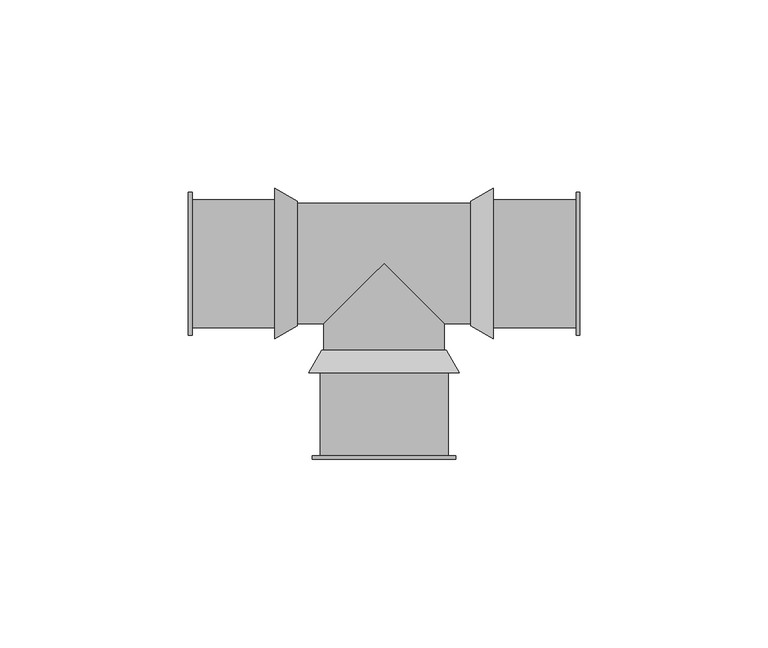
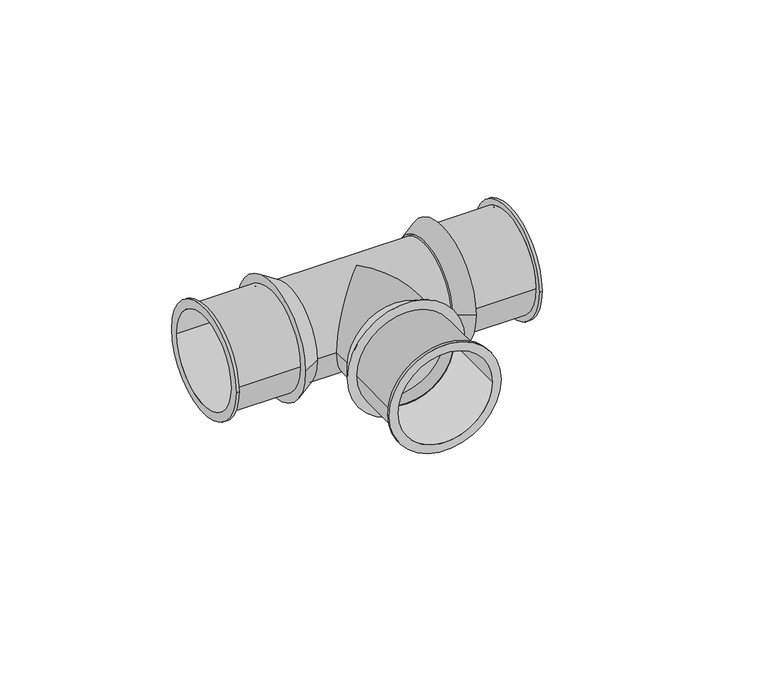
"""IFC4 building model written with IfcOpenShell, lengths in millimetres: pipe fitting geometry, SuperPipe_Tee_SPressPlus : SuperPipe_Tee_SPressPlus."""

from ifc_helpers import new_model, si_unit, point, frame, origin, origin_2d, place, context, project, spatial, polyline, circle_curve, ellipse_curve, trimmed, segment, composite_curve, outline, extrude, source, transform, mapped, element, save
from ifc_brep_helpers import plane_surface, cylinder_surface, revolved_surface, advanced_brep


def pipe_fitting_bb4a2914(model_context):
    return source(origin(), model_context, "Body", "SolidModel", [
        advanced_brep(
        [(-52.0, -19.0, 0.0), (-52.0, 19.0, 0.0), (-52.0, -16.0, 0.0), (-52.0, 16.0, 0.0), (-29.0, -17.0, 0.0), (-29.0, 17.0, 0.0), (-29.0, -16.0, 0.0), (-29.0, 16.0, 0.0), (-51.0, -16.0, 0.0), (-51.0, 16.0, 0.0), (-51.0, 17.0, 0.0), (-51.0, -17.0, 0.0), (-51.0, -19.0, 0.0), (-51.0, 19.0, 0.0)],
        [
            (0, 1, circle_curve(frame((-52.0, 0.0, 0.0), z_axis=(-1.0, 0.0, 0.0), x_axis=(0.0, 1.0, 0.0)), 19.0)),
            (1, 0, circle_curve(frame((-52.0, 0.0, 0.0), z_axis=(-1.0, 0.0, 0.0), x_axis=(0.0, 1.0, 0.0)), 19.0)),
            (2, 3, circle_curve(frame((-52.0, 0.0, 0.0), z_axis=(1.0, 0.0, 0.0), x_axis=(0.0, 1.0, 0.0)), 16.0)),
            (3, 2, circle_curve(frame((-52.0, 0.0, 0.0), z_axis=(1.0, 0.0, 0.0), x_axis=(0.0, 1.0, 0.0)), 16.0)),
            (4, 5, circle_curve(frame((-29.0, 0.0, 0.0), z_axis=(1.0, 0.0, 0.0), x_axis=(0.0, 1.0, 0.0)), 17.0)),
            (5, 4, circle_curve(frame((-29.0, 0.0, 0.0), z_axis=(1.0, 0.0, 0.0), x_axis=(0.0, 1.0, 0.0)), 17.0)),
            (6, 7, circle_curve(frame((-29.0, 0.0, 0.0), z_axis=(-1.0, 0.0, 0.0), x_axis=(0.0, 1.0, 0.0)), 16.0)),
            (7, 6, circle_curve(frame((-29.0, 0.0, 0.0), z_axis=(-1.0, 0.0, 0.0), x_axis=(0.0, 1.0, 0.0)), 16.0)),
            (2, 8),
            (8, 6),
            (7, 9),
            (9, 3),
            (5, 10),
            (10, 11, circle_curve(frame((-51.0, 0.0, 0.0), z_axis=(1.0, 0.0, 0.0), x_axis=(0.0, 1.0, 0.0)), 17.0)),
            (11, 4),
            (11, 10, circle_curve(frame((-51.0, 0.0, 0.0), z_axis=(1.0, 0.0, 0.0), x_axis=(0.0, 1.0, 0.0)), 17.0)),
            (12, 13, circle_curve(frame((-51.0, 0.0, 0.0), z_axis=(1.0, 0.0, 0.0), x_axis=(0.0, 1.0, 0.0)), 19.0)),
            (13, 12, circle_curve(frame((-51.0, 0.0, 0.0), z_axis=(1.0, 0.0, 0.0), x_axis=(0.0, 1.0, 0.0)), 19.0)),
            (0, 12),
            (13, 1),
        ],
        [
            plane_surface(frame((-52.0, 0.0, 0.0), z_axis=(-1.0, 0.0, 0.0), x_axis=(0.0, 0.0, 1.0))),
            plane_surface(frame((-29.0, 0.0, 0.0), z_axis=(1.0, 0.0, 0.0), x_axis=(0.0, 0.0, 1.0))),
            revolved_surface(polyline([(-29.0, 16.0, 0.0), (-52.0, 16.0, 0.0)]), (-52.0, 0.0, 0.0), (1.0, 0.0, 0.0)),
            cylinder_surface(frame((-52.0, 0.0, 0.0), z_axis=(-1.0, 0.0, 0.0), x_axis=(0.0, 1.0, 0.0)), 17.0),
            plane_surface(frame((-51.0, 0.0, 0.0), z_axis=(1.0, 0.0, 0.0), x_axis=(0.0, 0.0, 1.0))),
            cylinder_surface(frame((-52.0, 0.0, 0.0), z_axis=(-1.0, 0.0, 0.0), x_axis=(0.0, 1.0, 0.0)), 19.0),
        ],
        [
            (0, [[1, 2], [3, 4]]),
            (1, [[5, 6], [7, 8]]),
            (2, [[-3, 9, 10, -8, 11, 12]]),
            (2, [[-4, -12, -11, -7, -10, -9]]),
            (3, [[-6, 13, 14, 15]]),
            (3, [[-5, -15, 16, -13]]),
            (4, [[17, 18], [-14, -16]]),
            (5, [[-1, 19, -18, 20]]),
            (5, [[-2, -20, -17, -19]]),
        ],
    ),
        advanced_brep(
        [(29.0, -17.0, 0.0), (29.0, 17.0, 0.0), (29.0, -16.0, 0.0), (29.0, 16.0, 0.0), (52.0, -19.0, 0.0), (52.0, 19.0, 0.0), (52.0, -16.0, 0.0), (52.0, 16.0, 0.0), (51.0, -17.0, 0.0), (51.0, 17.0, 0.0), (51.0, -16.0, 0.0), (51.0, 16.0, 0.0), (51.0, -19.0, 0.0), (51.0, 19.0, 0.0)],
        [
            (0, 1, circle_curve(frame((29.0, 0.0, 0.0), z_axis=(-1.0, 0.0, 0.0), x_axis=(0.0, 1.0, 0.0)), 17.0)),
            (1, 0, circle_curve(frame((29.0, 0.0, 0.0), z_axis=(-1.0, 0.0, 0.0), x_axis=(0.0, 1.0, 0.0)), 17.0)),
            (2, 3, circle_curve(frame((29.0, 0.0, 0.0), z_axis=(1.0, 0.0, 0.0), x_axis=(0.0, 1.0, 0.0)), 16.0)),
            (3, 2, circle_curve(frame((29.0, 0.0, 0.0), z_axis=(1.0, 0.0, 0.0), x_axis=(0.0, 1.0, 0.0)), 16.0)),
            (4, 5, circle_curve(frame((52.0, 0.0, 0.0), z_axis=(1.0, 0.0, 0.0), x_axis=(0.0, 1.0, 0.0)), 19.0)),
            (5, 4, circle_curve(frame((52.0, 0.0, 0.0), z_axis=(1.0, 0.0, 0.0), x_axis=(0.0, 1.0, 0.0)), 19.0)),
            (6, 7, circle_curve(frame((52.0, 0.0, 0.0), z_axis=(-1.0, 0.0, 0.0), x_axis=(0.0, 1.0, 0.0)), 16.0)),
            (7, 6, circle_curve(frame((52.0, 0.0, 0.0), z_axis=(-1.0, 0.0, 0.0), x_axis=(0.0, 1.0, 0.0)), 16.0)),
            (0, 8),
            (8, 9, circle_curve(frame((51.0, 0.0, 0.0), z_axis=(-1.0, 0.0, 0.0), x_axis=(0.0, 1.0, 0.0)), 17.0)),
            (9, 1),
            (9, 8, circle_curve(frame((51.0, 0.0, 0.0), z_axis=(-1.0, 0.0, 0.0), x_axis=(0.0, 1.0, 0.0)), 17.0)),
            (2, 10),
            (10, 6),
            (7, 11),
            (11, 3),
            (12, 13, circle_curve(frame((51.0, 0.0, 0.0), z_axis=(-1.0, 0.0, 0.0), x_axis=(0.0, 1.0, 0.0)), 19.0)),
            (13, 12, circle_curve(frame((51.0, 0.0, 0.0), z_axis=(-1.0, 0.0, 0.0), x_axis=(0.0, 1.0, 0.0)), 19.0)),
            (12, 4),
            (5, 13),
        ],
        [
            plane_surface(frame((29.0, 0.0, 0.0), z_axis=(-1.0, 0.0, 0.0), x_axis=(0.0, 0.0, 1.0))),
            plane_surface(frame((52.0, 0.0, 0.0), z_axis=(1.0, 0.0, 0.0), x_axis=(0.0, 0.0, 1.0))),
            cylinder_surface(frame((29.0, 0.0, 0.0), z_axis=(-1.0, 0.0, 0.0), x_axis=(0.0, 1.0, 0.0)), 17.0),
            revolved_surface(polyline([(52.0, 16.0, 0.0), (29.0, 16.0, 0.0)]), (29.0, 0.0, 0.0), (1.0, 0.0, 0.0)),
            plane_surface(frame((51.0, 0.0, 0.0), z_axis=(-1.0, 0.0, 0.0), x_axis=(0.0, 0.0, 1.0))),
            cylinder_surface(frame((51.0, 0.0, 0.0), z_axis=(-1.0, 0.0, 0.0), x_axis=(0.0, 1.0, 0.0)), 19.0),
        ],
        [
            (0, [[1, 2], [3, 4]]),
            (1, [[5, 6], [7, 8]]),
            (2, [[-1, 9, 10, 11]]),
            (2, [[-2, -11, 12, -9]]),
            (3, [[-3, 13, 14, -8, 15, 16]]),
            (3, [[-4, -16, -15, -7, -14, -13]]),
            (4, [[17, 18], [-10, -12]]),
            (5, [[-17, 19, -6, 20]]),
            (5, [[-18, -20, -5, -19]]),
        ],
    ),
        advanced_brep(
        [(-20.0, -29.0, 0.0), (20.0, -29.0, 0.0), (-16.0, -29.0, 0.0), (16.0, -29.0, 0.0), (-16.5, -23.0, 0.0), (16.5, -23.0, 0.0), (-16.0, -24.0, 0.0), (16.0, -24.0, 0.0)],
        [
            (0, 1, circle_curve(frame((0.0, -29.0, 0.0), z_axis=(0.0, -1.0, 0.0), x_axis=(-1.0, 0.0, 0.0)), 20.0)),
            (1, 0, circle_curve(frame((0.0, -29.0, 0.0), z_axis=(0.0, -1.0, 0.0), x_axis=(1.0, 0.0, 0.0)), 20.0)),
            (2, 3, circle_curve(frame((0.0, -29.0, 0.0), z_axis=(0.0, 1.0, 0.0), x_axis=(1.0, 0.0, 0.0)), 16.0)),
            (3, 2, circle_curve(frame((0.0, -29.0, 0.0), z_axis=(0.0, 1.0, 0.0), x_axis=(1.0, 0.0, 0.0)), 16.0)),
            (4, 5, circle_curve(frame((0.0, -23.0, 0.0), z_axis=(0.0, 1.0, 0.0), x_axis=(1.0, 0.0, 0.0)), 16.5)),
            (5, 4, circle_curve(frame((0.0, -23.0, 0.0), z_axis=(0.0, 1.0, 0.0), x_axis=(-1.0, 0.0, 0.0)), 16.5)),
            (0, 4),
            (5, 1),
            (6, 7, circle_curve(frame((0.0, -24.0, 0.0), z_axis=(0.0, -1.0, 0.0), x_axis=(1.0, 0.0, 0.0)), 16.0)),
            (7, 6, circle_curve(frame((0.0, -24.0, 0.0), z_axis=(0.0, -1.0, 0.0), x_axis=(1.0, 0.0, 0.0)), 16.0)),
            (7, 3),
            (2, 6),
        ],
        [
            plane_surface(frame((0.0, -29.0, 0.0), z_axis=(0.0, -1.0, 0.0), x_axis=(0.0, 0.0, -1.0))),
            plane_surface(frame((0.0, -23.0, 0.0), z_axis=(0.0, 1.0, 0.0), x_axis=(0.0, 0.0, -1.0))),
            revolved_surface(polyline([(16.500000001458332, -23.0, 0.0), (20.0, -29.0, 0.0)]), (0.0, 5.2857143, 0.0), (0.0, -1.0, 0.0)),
            revolved_surface(polyline([(-16.500000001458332, -23.0, 0.0), (-20.0, -29.0, 0.0)]), (0.0, 5.2857143, 0.0), (0.0, -1.0, 0.0)),
            plane_surface(frame((0.0, -24.0, 0.0), z_axis=(0.0, -1.0, 0.0), x_axis=(0.0, 0.0, 1.0))),
            revolved_surface(polyline([(16.0, -24.0, 0.0), (16.0, -29.0, 0.0)]), (0.0, -24.0, 0.0), (0.0, 1.0, 0.0)),
        ],
        [
            (0, [[1, 2], [3, 4]]),
            (1, [[5, 6]]),
            (2, [[-1, 7, -6, 8]]),
            (3, [[-2, -8, -5, -7]]),
            (4, [[9, 10]]),
            (5, [[-10, 11, -3, 12]]),
            (5, [[-9, -12, -4, -11]]),
        ],
    ),
        advanced_brep(
        [(29.0, -20.0, 0.0), (29.0, 20.0, 0.0), (29.0, 16.0, 0.0), (29.0, -16.0, 0.0), (23.0, -16.5, 0.0), (23.0, 16.5, 0.0), (24.0, -16.0, 0.0), (24.0, 16.0, 0.0)],
        [
            (0, 1, circle_curve(frame((29.0, 0.0, 0.0), z_axis=(1.0, 0.0, 0.0), x_axis=(0.0, -1.0, 0.0)), 20.0)),
            (1, 0, circle_curve(frame((29.0, 0.0, 0.0), z_axis=(1.0, 0.0, 0.0), x_axis=(0.0, 1.0, 0.0)), 20.0)),
            (2, 3, circle_curve(frame((29.0, 0.0, 0.0), z_axis=(-1.0, 0.0, 0.0), x_axis=(0.0, 1.0, 0.0)), 16.0)),
            (3, 2, circle_curve(frame((29.0, 0.0, 0.0), z_axis=(-1.0, 0.0, 0.0), x_axis=(0.0, 1.0, 0.0)), 16.0)),
            (4, 5, circle_curve(frame((23.0, 0.0, 0.0), z_axis=(-1.0, 0.0, 0.0), x_axis=(0.0, 1.0, 0.0)), 16.5)),
            (5, 4, circle_curve(frame((23.0, 0.0, 0.0), z_axis=(-1.0, 0.0, 0.0), x_axis=(0.0, -1.0, 0.0)), 16.5)),
            (0, 4),
            (5, 1),
            (6, 7, circle_curve(frame((24.0, 0.0, 0.0), z_axis=(1.0, 0.0, 0.0), x_axis=(0.0, 1.0, 0.0)), 16.0)),
            (7, 6, circle_curve(frame((24.0, 0.0, 0.0), z_axis=(1.0, 0.0, 0.0), x_axis=(0.0, 1.0, 0.0)), 16.0)),
            (6, 3),
            (2, 7),
        ],
        [
            plane_surface(frame((29.0, 0.0, 0.0), z_axis=(1.0, 0.0, 0.0), x_axis=(0.0, 0.0, -1.0))),
            plane_surface(frame((23.0, 0.0, 0.0), z_axis=(-1.0, 0.0, 0.0), x_axis=(0.0, 0.0, -1.0))),
            revolved_surface(polyline([(23.0, 16.500000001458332, 0.0), (29.0, 20.0, 0.0)]), (-5.2857143, 0.0, 0.0), (1.0, 0.0, 0.0)),
            revolved_surface(polyline([(23.0, -16.500000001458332, 0.0), (29.0, -20.0, 0.0)]), (-5.2857143, 0.0, 0.0), (1.0, 0.0, 0.0)),
            plane_surface(frame((24.0, 16.0, 0.0), z_axis=(1.0, 0.0, 0.0), x_axis=(0.0, 0.0, -1.0))),
            revolved_surface(polyline([(29.0, 16.0, 0.0), (24.0, 16.0, 0.0)]), (24.0, 0.0, 0.0), (1.0, 0.0, 0.0)),
        ],
        [
            (0, [[1, 2], [3, 4]]),
            (1, [[5, 6]]),
            (2, [[-1, 7, -6, 8]]),
            (3, [[-2, -8, -5, -7]]),
            (4, [[9, 10]]),
            (5, [[-9, 11, -3, 12]]),
            (5, [[-10, -12, -4, -11]]),
        ],
    ),
        advanced_brep(
        [(-23.0, -16.5, 0.0), (-23.0, 16.5, 0.0), (-29.0, -20.0, 0.0), (-29.0, 20.0, 0.0), (-29.0, -16.0, 0.0), (-29.0, 16.0, 0.0), (-24.0, -16.0, 0.0), (-24.0, 16.0, 0.0)],
        [
            (0, 1, circle_curve(frame((-23.0, 0.0, 0.0), z_axis=(1.0, 0.0, 0.0), x_axis=(0.0, -1.0, 0.0)), 16.5)),
            (1, 0, circle_curve(frame((-23.0, 0.0, 0.0), z_axis=(1.0, 0.0, 0.0), x_axis=(0.0, 1.0, 0.0)), 16.5)),
            (2, 3, circle_curve(frame((-29.0, 0.0, 0.0), z_axis=(-1.0, 0.0, 0.0), x_axis=(0.0, 1.0, 0.0)), 20.0)),
            (3, 2, circle_curve(frame((-29.0, 0.0, 0.0), z_axis=(-1.0, 0.0, 0.0), x_axis=(0.0, -1.0, 0.0)), 20.0)),
            (4, 5, circle_curve(frame((-29.0, 0.0, 0.0), z_axis=(1.0, 0.0, 0.0), x_axis=(0.0, 1.0, 0.0)), 16.0)),
            (5, 4, circle_curve(frame((-29.0, 0.0, 0.0), z_axis=(1.0, 0.0, 0.0), x_axis=(0.0, 1.0, 0.0)), 16.0)),
            (0, 2),
            (3, 1),
            (6, 7, circle_curve(frame((-24.0, 0.0, 0.0), z_axis=(-1.0, 0.0, 0.0), x_axis=(0.0, 1.0, 0.0)), 16.0)),
            (7, 6, circle_curve(frame((-24.0, 0.0, 0.0), z_axis=(-1.0, 0.0, 0.0), x_axis=(0.0, 1.0, 0.0)), 16.0)),
            (7, 5),
            (4, 6),
        ],
        [
            plane_surface(frame((-23.0, 0.0, 0.0), z_axis=(1.0, 0.0, 0.0), x_axis=(0.0, 0.0, -1.0))),
            plane_surface(frame((-29.0, 0.0, 0.0), z_axis=(-1.0, 0.0, 0.0), x_axis=(0.0, 0.0, -1.0))),
            revolved_surface(polyline([(-23.0, -16.500000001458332, 0.0), (-29.0, -20.0, 0.0)]), (5.2857143, 0.0, 0.0), (-1.0, 0.0, 0.0)),
            revolved_surface(polyline([(-23.0, 16.500000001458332, 0.0), (-29.0, 20.0, 0.0)]), (5.2857143, 0.0, 0.0), (-1.0, 0.0, 0.0)),
            plane_surface(frame((-24.0, 16.0, 0.0), z_axis=(-1.0, 0.0, 0.0), x_axis=(0.0, 0.0, 1.0))),
            revolved_surface(polyline([(-24.0, 16.0, 0.0), (-29.0, 16.0, 0.0)]), (-29.0, 0.0, 0.0), (1.0, 0.0, 0.0)),
        ],
        [
            (0, [[1, 2]]),
            (1, [[3, 4], [5, 6]]),
            (2, [[-1, 7, -4, 8]]),
            (3, [[-2, -8, -3, -7]]),
            (4, [[9, 10]]),
            (5, [[-10, 11, -5, 12]]),
            (5, [[-9, -12, -6, -11]]),
        ],
    ),
        advanced_brep(
        [(-16.0, -23.0, 0.0), (16.0, -23.0, 0.0), (16.0, -16.0, 0.0), (0.0, 0.0, 16.0), (-16.0, -16.0, 0.0), (0.0, 0.0, -16.0)],
        [
            (0, 1, circle_curve(frame((0.0, -23.0, 0.0), z_axis=(0.0, -1.0, 0.0), x_axis=(1.0, 0.0, 0.0)), 16.0)),
            (1, 0, circle_curve(frame((0.0, -23.0, 0.0), z_axis=(0.0, -1.0, 0.0), x_axis=(1.0, 0.0, 0.0)), 16.0)),
            (1, 2),
            (2, 3, ellipse_curve(frame((0.0, 0.0, 0.0), z_axis=(-0.7071067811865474, -0.7071067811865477, 0.0), x_axis=(-0.7071067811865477, 0.7071067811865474, 0.0)), 22.627417, 16.0)),
            (3, 4, ellipse_curve(frame((0.0, 0.0, 0.0), z_axis=(0.7071067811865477, -0.7071067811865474, 0.0), x_axis=(0.7071067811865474, 0.7071067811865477, 0.0)), 22.627417, 16.0)),
            (4, 0),
            (4, 5, ellipse_curve(frame((0.0, 0.0, 0.0), z_axis=(0.7071067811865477, -0.7071067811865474, 0.0), x_axis=(0.7071067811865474, 0.7071067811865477, 0.0)), 22.627417, 16.0)),
            (5, 2, ellipse_curve(frame((0.0, 0.0, 0.0), z_axis=(-0.7071067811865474, -0.7071067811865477, 0.0), x_axis=(-0.7071067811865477, 0.7071067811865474, 0.0)), 22.627417, 16.0)),
            (2, 4),
        ],
        [
            plane_surface(frame((0.0, -23.0, 0.0), z_axis=(0.0, -1.0, 0.0), x_axis=(0.0, 0.0, 1.0))),
            cylinder_surface(frame((0.0, 0.0, 0.0), z_axis=(0.0, 1.0, 0.0), x_axis=(1.0, 0.0, 0.0)), 16.0),
            revolved_surface(polyline([(-16.000000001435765, 16.0, 0.0), (16.000000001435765, 16.0, 0.0)]), (-108.8358145, 0.0, 0.0), (-1.0, 0.0, 0.0)),
        ],
        [
            (0, [[1, 2]]),
            (1, [[-2, 3, 4, 5, 6]]),
            (1, [[-1, -6, 7, 8, -3]]),
            (2, [[9, -5, -4]]),
            (2, [[-9, -8, -7]]),
        ],
    ),
        advanced_brep(
        [(-17.0, -29.0, 0.0), (17.0, -29.0, 0.0), (-16.0, -29.0, 0.0), (16.0, -29.0, 0.0), (-19.0, -52.0, 0.0), (19.0, -52.0, 0.0), (-16.0, -52.0, 0.0), (16.0, -52.0, 0.0), (-17.0, -51.0, 0.0), (17.0, -51.0, 0.0), (-19.0, -51.0, 0.0), (19.0, -51.0, 0.0)],
        [
            (0, 1, circle_curve(frame((0.0, -29.0, 0.0), z_axis=(0.0, 1.0, 0.0), x_axis=(1.0, 0.0, 0.0)), 17.0)),
            (1, 0, circle_curve(frame((0.0, -29.0, 0.0), z_axis=(0.0, 1.0, 0.0), x_axis=(1.0, 0.0, 0.0)), 17.0)),
            (2, 3, circle_curve(frame((0.0, -29.0, 0.0), z_axis=(0.0, -1.0, 0.0), x_axis=(1.0, 0.0, 0.0)), 16.0)),
            (3, 2, circle_curve(frame((0.0, -29.0, 0.0), z_axis=(0.0, -1.0, 0.0), x_axis=(1.0, 0.0, 0.0)), 16.0)),
            (4, 5, circle_curve(frame((0.0, -52.0, 0.0), z_axis=(0.0, -1.0, 0.0), x_axis=(1.0, 0.0, 0.0)), 19.0)),
            (5, 4, circle_curve(frame((0.0, -52.0, 0.0), z_axis=(0.0, -1.0, 0.0), x_axis=(1.0, 0.0, 0.0)), 19.0)),
            (6, 7, circle_curve(frame((0.0, -52.0, 0.0), z_axis=(0.0, 1.0, 0.0), x_axis=(1.0, 0.0, 0.0)), 16.0)),
            (7, 6, circle_curve(frame((0.0, -52.0, 0.0), z_axis=(0.0, 1.0, 0.0), x_axis=(1.0, 0.0, 0.0)), 16.0)),
            (2, 6),
            (7, 3),
            (0, 8),
            (8, 9, circle_curve(frame((0.0, -51.0, 0.0), z_axis=(0.0, 1.0, 0.0), x_axis=(1.0, 0.0, 0.0)), 17.0)),
            (9, 1),
            (9, 8, circle_curve(frame((0.0, -51.0, 0.0), z_axis=(0.0, 1.0, 0.0), x_axis=(1.0, 0.0, 0.0)), 17.0)),
            (10, 11, circle_curve(frame((0.0, -51.0, 0.0), z_axis=(0.0, 1.0, 0.0), x_axis=(1.0, 0.0, 0.0)), 19.0)),
            (11, 10, circle_curve(frame((0.0, -51.0, 0.0), z_axis=(0.0, 1.0, 0.0), x_axis=(1.0, 0.0, 0.0)), 19.0)),
            (10, 4),
            (5, 11),
        ],
        [
            plane_surface(frame((0.0, -29.0, 0.0), z_axis=(0.0, 1.0, 0.0), x_axis=(0.0, 0.0, 1.0))),
            plane_surface(frame((0.0, -52.0, 0.0), z_axis=(0.0, -1.0, 0.0), x_axis=(0.0, 0.0, 1.0))),
            revolved_surface(polyline([(16.0, -52.0, 0.0), (16.0, -29.0, 0.0)]), (0.0, -29.0, 0.0), (0.0, -1.0, 0.0)),
            cylinder_surface(frame((0.0, -29.0, 0.0), z_axis=(0.0, 1.0, 0.0), x_axis=(1.0, 0.0, 0.0)), 17.0),
            plane_surface(frame((0.0, -51.0, 0.0), z_axis=(0.0, 1.0, 0.0), x_axis=(0.0, 0.0, 1.0))),
            cylinder_surface(frame((0.0, -51.0, 0.0), z_axis=(0.0, 1.0, 0.0), x_axis=(1.0, 0.0, 0.0)), 19.0),
        ],
        [
            (0, [[1, 2], [3, 4]]),
            (1, [[5, 6], [7, 8]]),
            (2, [[-3, 9, -8, 10]]),
            (2, [[-4, -10, -7, -9]]),
            (3, [[-1, 11, 12, 13]]),
            (3, [[-2, -13, 14, -11]]),
            (4, [[15, 16], [-12, -14]]),
            (5, [[-15, 17, -6, 18]]),
            (5, [[-16, -18, -5, -17]]),
        ],
    ),
        extrude(outline(composite_curve([segment(trimmed(circle_curve(origin_2d(), 16.0), [point((-16.0, 0.0))], [point((16.0, 0.0))], False, "CARTESIAN"), True, "CONTINUOUS"), segment(trimmed(circle_curve(origin_2d(), 16.0), [point((16.0, 0.0))], [point((-16.0, 0.0))], False, "CARTESIAN"), True, "CONTINUOUS")], self_intersect=False)), frame((-23.0, 0.0, 0.0), z_axis=(1.0, 0.0, 0.0), x_axis=(0.0, 1.0, 0.0)), (0.0, 0.0, 1.0), 46.0),
    ])


if __name__ == "__main__":
    model = new_model("IFC4")
    model_context = context("Model", 3, world=origin())
    ifc_project = project(units=[si_unit("LENGTHUNIT", "METRE", prefix="MILLI")], contexts=[model_context])
    site = spatial("IfcSite", under=ifc_project)
    building = spatial("IfcBuilding", under=site)
    placement = place(None, origin())
    pipe_fitting_shape = pipe_fitting_bb4a2914(model_context)
    element("IfcPipeFitting", 1, ObjectType="SuperPipe_Tee_SPressPlus : SuperPipe_Tee_SPressPlus", at=placement, inside=building, context=model_context, shape_type="MappedRepresentation", body=[
        mapped(pipe_fitting_shape, transform((0.0, 0.0, 0.0), x_axis=(1.0, 0.0, 0.0), y_axis=(0.0, 1.0, 0.0), z_axis=(0.0, 0.0, 1.0))),
    ])
    save(model, "model.ifc")
